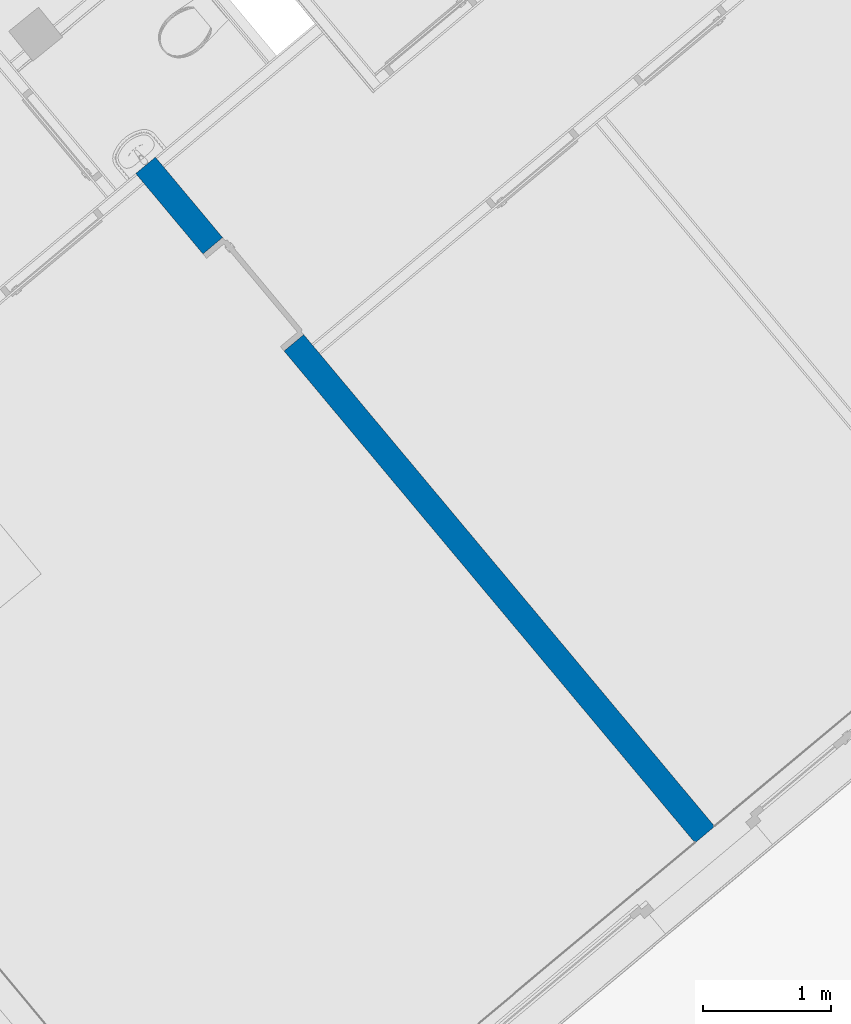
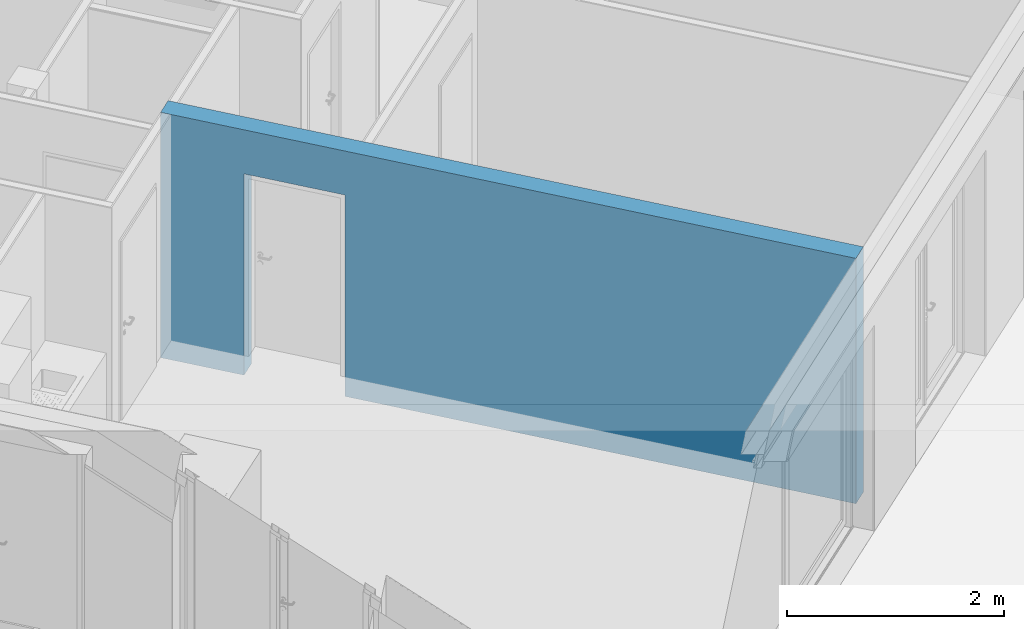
# One storey, part 1 of 75: 1 wall, 1 opening.
"""IFC4 building model written with IfcOpenShell, lengths in metres."""

from ifc_helpers import new_model, entity, si_unit, converted_unit, derived_unit, direction, frame, origin_with_axes, place, context, subcontext, project, spatial, polygons, material, type_object, element, save


model = new_model("IFC4")

# Units and contexts
model_context = context("Model", 3, precision=1e-05, world=origin_with_axes(), true_north=direction((0.0, 1.0)))
body_context = subcontext(model_context, "Body", "Model", "MODEL_VIEW")
ifc_project = project(units=[si_unit("LENGTHUNIT", "METRE"), si_unit("AREAUNIT", "SQUARE_METRE"), si_unit("VOLUMEUNIT", "CUBIC_METRE"), converted_unit("PLANEANGLEUNIT", "DEGREE", entity("IfcPlaneAngleMeasure", 0.0174532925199), si_unit("PLANEANGLEUNIT", "RADIAN"), dimensions=[0, 0, 0, 0, 0, 0, 0]), converted_unit("TIMEUNIT", "Year", entity("IfcTimeMeasure", 31556926.0), si_unit("TIMEUNIT", "SECOND"), dimensions=[0, 0, 1, 0, 0, 0, 0]), si_unit("MASSUNIT", "GRAM", prefix="KILO"), si_unit("THERMODYNAMICTEMPERATUREUNIT", "DEGREE_CELSIUS"), si_unit("LUMINOUSINTENSITYUNIT", "LUMEN"), si_unit("ENERGYUNIT", "JOULE", prefix="MEGA"), derived_unit("THERMALCONDUCTANCEUNIT", [(si_unit("POWERUNIT", "WATT"), 1), (si_unit("LENGTHUNIT", "METRE"), -1), (si_unit("THERMODYNAMICTEMPERATUREUNIT", "KELVIN"), -1)]), derived_unit("SPECIFICHEATCAPACITYUNIT", [(si_unit("ENERGYUNIT", "JOULE"), 1), (si_unit("MASSUNIT", "GRAM", prefix="KILO"), -1), (si_unit("THERMODYNAMICTEMPERATUREUNIT", "KELVIN"), -1)]), derived_unit("MASSDENSITYUNIT", [(si_unit("MASSUNIT", "GRAM", prefix="KILO"), 1), (si_unit("VOLUMEUNIT", "CUBIC_METRE"), -1)])], contexts=[model_context])

# Site, building, storey
site_placement = place(None, frame((-0.00153261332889, -0.00661245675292, 0.0), z_axis=(0.0, 0.0, 1.0), x_axis=(1.0, 0.0, 0.0)))
site = spatial("IfcSite", under=ifc_project, at=site_placement, Name="Gelände", CompositionType="ELEMENT")
building_placement = place(site_placement, origin_with_axes())
building = spatial("IfcBuilding", under=site, at=building_placement, Name="Gebäude", CompositionType="ELEMENT")
storey_placement = place(building_placement, frame((0.0, 0.0, -0.22), z_axis=(0.0, 0.0, 1.0), x_axis=(1.0, 0.0, 0.0)))
storey = spatial("IfcBuildingStorey", under=building, at=storey_placement, Name="EG", CompositionType="ELEMENT", Elevation=-0.22)

# Wall, opening
ifc_material = material(Name="Stahlbeton Wand")
wall_type = type_object("IfcWallType", Name="Stahlbeton Wand 200", PredefinedType="NOTDEFINED")
wall_placement = place(storey_placement, frame((3.94303822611, 12.3679977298, 0.0), z_axis=(0.0, 0.0, 1.0), x_axis=(-0.641209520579, 0.767365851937, 0.0)))
wall = element("IfcWall", 1, at=wall_placement, inside=storey, type_object=wall_type, material=ifc_material, Name="Wand-003", PredefinedType="NOTDEFINED", context=body_context, shape_type="Tessellation", body=[
    polygons([(6.41913889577, 0.0, 2.265), (6.41913889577, -6.53536957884e-08, 0.22), (6.41913889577, -6.53536940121e-08, 0.0), (7.23878509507, 0.0, 0.0), (7.23878509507, 0.0, 2.76), (0.415000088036, 0.0, 2.76), (0.415000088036, 0.0, 0.0), (5.42913891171, 4.04373086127e-08, 0.0), (5.42913889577, 4.04373086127e-08, 0.22), (5.42913889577, 0.0, 2.265), (6.41913889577, 0.2, 2.265), (6.41913889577, 0.2, 0.22), (6.41913889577, 0.2, 0.0), (7.23878509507, 0.2, 0.0), (7.23878509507, 0.2, 2.76), (0.414869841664, 0.2, 2.76), (0.414869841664, 0.2, 0.0), (5.42913891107, 0.2, 0.0), (5.42913889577, 0.2, 0.22), (5.42913889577, 0.2, 2.265)], [[[1, 2, 3, 4, 5, 6, 7, 8, 9, 10]], [[2, 1, 11, 12]], [[2, 12, 13, 3]], [[3, 13, 14, 4]], [[4, 14, 15, 5]], [[5, 15, 16, 6]], [[16, 17, 7, 6]], [[18, 8, 7, 17]], [[19, 9, 8, 18]], [[10, 9, 19, 20]], [[1, 10, 20, 11]], [[20, 19, 18, 17, 16, 15, 14, 13, 12, 11]]], closed=True),
])
opening_placement = place(wall_placement, frame((5.92413889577, 0.0, 0.22), z_axis=(0.0, 0.0, 1.0), x_axis=(1.0, 0.0, 0.0)))
element("IfcOpeningElement", 2, at=opening_placement, cuts=wall, Name="Tür-017", context=body_context, identifier="Reference", shape_type="Tessellation", body=[
    polygons([(0.495, 3.7627883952, 2.045), (0.495, 3.7627883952, -0.22), (-0.495, 3.7627883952, -0.22), (-0.495, 3.7627883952, 2.045), (0.495, -3.5627883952, 2.045), (0.495, -3.5627883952, -0.22), (-0.495, -3.5627883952, -0.22), (-0.495, -3.5627883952, 2.045)], [[[1, 2, 3, 4]], [[5, 6, 2, 1]], [[6, 7, 3, 2]], [[7, 8, 4, 3]], [[8, 5, 1, 4]], [[7, 6, 5, 8]]], closed=True),
])

save(model, "model.ifc")
